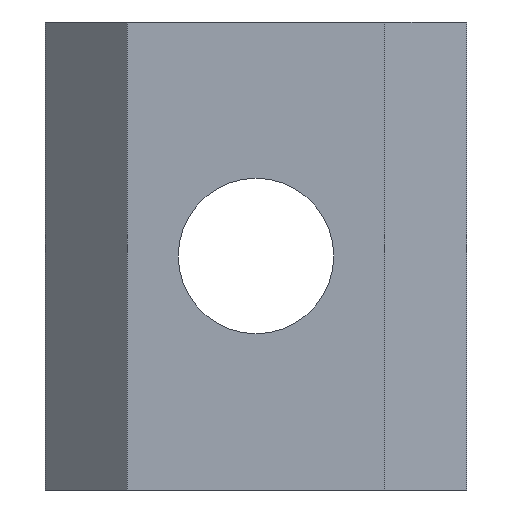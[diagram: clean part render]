
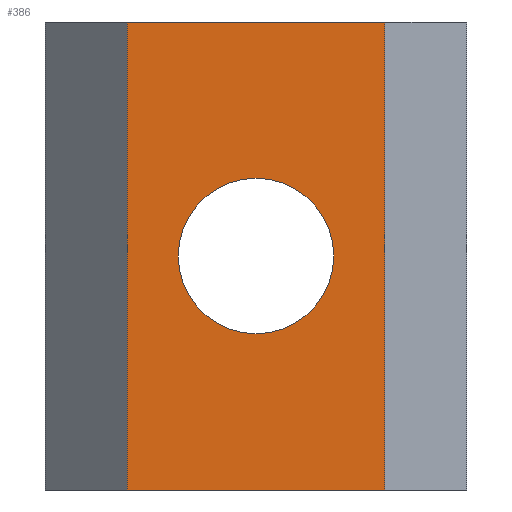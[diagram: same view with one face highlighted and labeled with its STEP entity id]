
A CAD part, front view. The second image highlights one B-rep face of the part: STEP entity #386.
In plain terms, the highlighted planar face has unit normal (0, -1, 0).
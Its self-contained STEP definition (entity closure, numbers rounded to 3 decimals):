
#145=CARTESIAN_POINT('',(12.323,0.0,-10.0));
#146=VERTEX_POINT('',#145);
#147=CARTESIAN_POINT('',(9.0,0.0,-10.0));
#148=DIRECTION('',(0.0,1.0,0.0));
#149=DIRECTION('',(1.0,0.0,0.0));
#150=AXIS2_PLACEMENT_3D('',#147,#148,#149);
#151=CIRCLE('',#150,3.324);
#152=EDGE_CURVE('',#146,#146,#151,.T.);
#318=CARTESIAN_POINT('',(14.5,0.0,-20.0));
#319=VERTEX_POINT('',#318);
#336=CARTESIAN_POINT('',(14.5,0.0,0.0));
#337=VERTEX_POINT('',#336);
#344=CARTESIAN_POINT('',(14.5,0.0,0.0));
#345=DIRECTION('',(0.0,0.0,-1.0));
#346=VECTOR('',#345,20.0);
#347=LINE('',#344,#346);
#348=EDGE_CURVE('',#337,#319,#347,.T.);
#353=CARTESIAN_POINT('',(0.0,0.0,0.0));
#354=DIRECTION('',(0.0,-1.0,0.0));
#355=DIRECTION('',(0.0,0.0,-1.0));
#356=AXIS2_PLACEMENT_3D('',#353,#354,#355);
#357=PLANE('',#356);
#358=ORIENTED_EDGE('',*,*,#348,.F.);
#359=CARTESIAN_POINT('',(3.5,0.0,0.0));
#360=VERTEX_POINT('',#359);
#361=CARTESIAN_POINT('',(3.5,0.0,0.0));
#362=DIRECTION('',(1.0,0.0,0.0));
#363=VECTOR('',#362,11.0);
#364=LINE('',#361,#363);
#365=EDGE_CURVE('',#360,#337,#364,.T.);
#366=ORIENTED_EDGE('',*,*,#365,.F.);
#367=CARTESIAN_POINT('',(3.5,0.0,-20.0));
#368=VERTEX_POINT('',#367);
#369=CARTESIAN_POINT('',(3.5,0.0,-20.0));
#370=DIRECTION('',(0.0,0.0,1.0));
#371=VECTOR('',#370,20.0);
#372=LINE('',#369,#371);
#373=EDGE_CURVE('',#368,#360,#372,.T.);
#374=ORIENTED_EDGE('',*,*,#373,.F.);
#375=CARTESIAN_POINT('',(3.5,0.0,-20.0));
#376=DIRECTION('',(1.0,0.0,0.0));
#377=VECTOR('',#376,11.0);
#378=LINE('',#375,#377);
#379=EDGE_CURVE('',#368,#319,#378,.T.);
#380=ORIENTED_EDGE('',*,*,#379,.T.);
#381=EDGE_LOOP('',(#358,#366,#374,#380));
#382=FACE_OUTER_BOUND('',#381,.T.);
#383=ORIENTED_EDGE('',*,*,#152,.T.);
#384=EDGE_LOOP('',(#383));
#385=FACE_BOUND('',#384,.T.);
#386=ADVANCED_FACE('',(#382,#385),#357,.T.);
